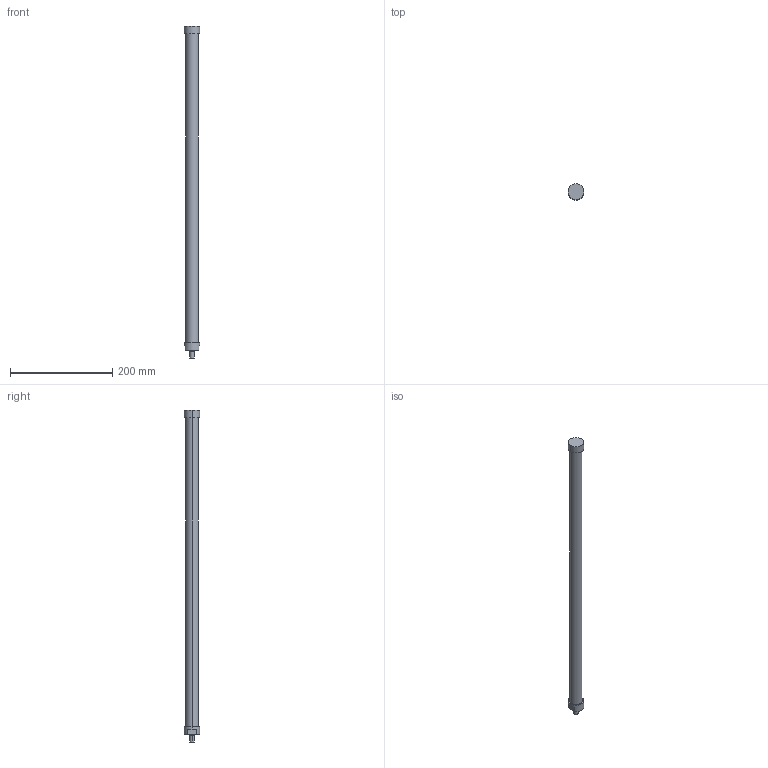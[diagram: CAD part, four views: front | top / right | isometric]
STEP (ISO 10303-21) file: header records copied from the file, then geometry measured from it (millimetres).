
FILE_DESCRIPTION(('STEP AP214'),'1');
FILE_NAME('ETT-R050M644.stp','2015-02-02T15:19:05',(' '),(' '),'Spatial InterOp 3D',' ',' ');
FILE_SCHEMA(('automotive_design'));
Length unit declared in the file: metre
Products named in the file (2): 1; 2
Bounding box: 31 x 31 x 649 mm (x, y, z)
Volume: 319312.3 mm3; surface area: 53031.2 mm2
Topology: 1 solids, 4 shells, 20 faces, 48 edges, 36 vertices
Faces by surface type: cylinder 10, plane 10
Entity records: 812 total; most frequent: DIRECTION 120, CARTESIAN_POINT 106, ORIENTED_EDGE 84, AXIS2_PLACEMENT_3D 50, EDGE_CURVE 48, VERTEX_POINT 36, CIRCLE 28, EDGE_LOOP 24
